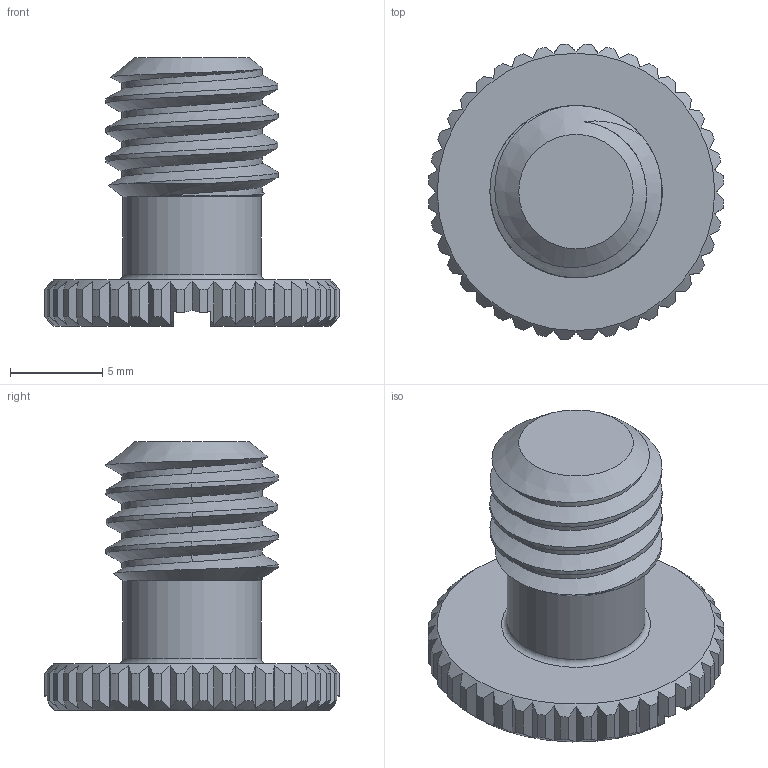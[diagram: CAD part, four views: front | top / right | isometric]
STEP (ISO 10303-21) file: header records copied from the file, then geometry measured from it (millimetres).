
FILE_DESCRIPTION(/* description */ (''),/* implementation_level */ '2;1');
FILE_NAME(/* name */ 'Stativschraube 3_8 original UNC.step',/* time_stamp */ '2023-11-01T15:55:54+01:00',/* author */ (''),/* organization */ (''),/* preprocessor_version */ 'ST-DEVELOPER v20',/* originating_system */ 'Autodesk Translation Framework v12.14.0.127',/* authorisation */ '');
FILE_SCHEMA (('AUTOMOTIVE_DESIGN { 1 0 10303 214 3 1 1 }'));
Length unit declared in the file: millimetre
Products named in the file (1): Stativschraube 3_8"
Bounding box: 15.98 x 15.98 x 14.5 mm (x, y, z)
Volume: 1029.5 mm3; surface area: 968.9 mm2
Topology: 1 solids, 1 shells, 146 faces, 427 edges, 284 vertices
Faces by surface type: plane 86, cylinder 51, cone 6, bspline 2, torus 1
Full cylindrical faces by diameter (mm): 7.463 x1, 9.312 x1
Entity records: 5646 total; most frequent: CARTESIAN_POINT 2177, ORIENTED_EDGE 854, DIRECTION 630, EDGE_CURVE 427, VERTEX_POINT 284, AXIS2_PLACEMENT_3D 246, EDGE_LOOP 147, FACE_OUTER_BOUND 146
